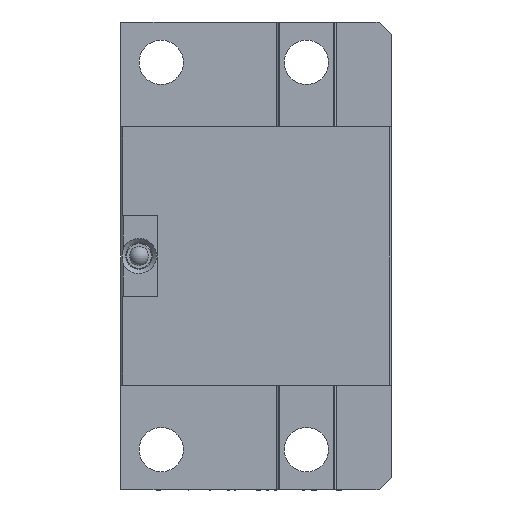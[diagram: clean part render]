
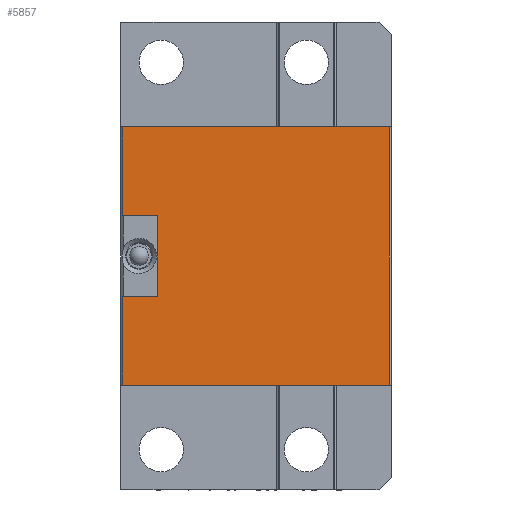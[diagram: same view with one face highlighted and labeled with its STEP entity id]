
A CAD part, front view. The second image highlights one B-rep face of the part: STEP entity #5857.
In plain terms, the highlighted planar face has unit normal (0, -1, 0).
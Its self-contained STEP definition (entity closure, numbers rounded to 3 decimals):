
#329 = CARTESIAN_POINT ( 'NONE',  ( 20.5, 7.1, -32. ) ) ;
#345 = LINE ( 'NONE', #11540, #7592 ) ;
#494 = PLANE ( 'NONE',  #3358 ) ;
#509 = LINE ( 'NONE', #6653, #806 ) ;
#520 = VERTEX_POINT ( 'NONE', #4225 ) ;
#670 = LINE ( 'NONE', #10718, #7625 ) ;
#806 = VECTOR ( 'NONE', #5849, 1000. ) ;
#873 = ORIENTED_EDGE ( 'NONE', *, *, #10090, .F. ) ;
#1004 = EDGE_LOOP ( 'NONE', ( #873, #8696, #7498, #3270, #4585, #5607, #3249, #5315 ) ) ;
#1554 = VECTOR ( 'NONE', #3181, 1000. ) ;
#2068 = DIRECTION ( 'NONE',  ( 1., 0., 0. ) ) ;
#2507 = CARTESIAN_POINT ( 'NONE',  ( -46., 7.1, 10. ) ) ;
#2514 = CARTESIAN_POINT ( 'NONE',  ( -37., 7.1, -10. ) ) ;
#2519 = VERTEX_POINT ( 'NONE', #329 ) ;
#2772 = VERTEX_POINT ( 'NONE', #2514 ) ;
#2773 = VECTOR ( 'NONE', #6655, 1000. ) ;
#3181 = DIRECTION ( 'NONE',  ( 1., 0., 0. ) ) ;
#3249 = ORIENTED_EDGE ( 'NONE', *, *, #8025, .F. ) ;
#3270 = ORIENTED_EDGE ( 'NONE', *, *, #8665, .T. ) ;
#3358 = AXIS2_PLACEMENT_3D ( 'NONE', #10888, #7112, #4856 ) ;
#3752 = EDGE_CURVE ( 'NONE', #520, #10953, #10335, .T. ) ;
#4064 = LINE ( 'NONE', #4211, #1554 ) ;
#4211 = CARTESIAN_POINT ( 'NONE',  ( -46., 7.1, -10. ) ) ;
#4225 = CARTESIAN_POINT ( 'NONE',  ( 20.5, 7.1, 32. ) ) ;
#4290 = CARTESIAN_POINT ( 'NONE',  ( -45.5, 7.1, 10. ) ) ;
#4314 = VERTEX_POINT ( 'NONE', #4290 ) ;
#4450 = DIRECTION ( 'NONE',  ( -1., 0., 0. ) ) ;
#4585 = ORIENTED_EDGE ( 'NONE', *, *, #3752, .T. ) ;
#4856 = DIRECTION ( 'NONE',  ( 0., 0., -1. ) ) ;
#5176 = DIRECTION ( 'NONE',  ( 0., 0., -1. ) ) ;
#5203 = CARTESIAN_POINT ( 'NONE',  ( -45.5, 7.1, -32. ) ) ;
#5315 = ORIENTED_EDGE ( 'NONE', *, *, #9069, .F. ) ;
#5607 = ORIENTED_EDGE ( 'NONE', *, *, #9347, .T. ) ;
#5692 = CARTESIAN_POINT ( 'NONE',  ( -46., 7.1, 32. ) ) ;
#5849 = DIRECTION ( 'NONE',  ( 0., 0., 1. ) ) ;
#5857 = ADVANCED_FACE ( 'NONE', ( #8974 ), #494, .T. ) ;
#5867 = VECTOR ( 'NONE', #5176, 1000. ) ;
#6402 = VERTEX_POINT ( 'NONE', #5203 ) ;
#6653 = CARTESIAN_POINT ( 'NONE',  ( -37., 7.1, 10. ) ) ;
#6655 = DIRECTION ( 'NONE',  ( -1., 0., 0. ) ) ;
#6954 = CARTESIAN_POINT ( 'NONE',  ( -37., 7.1, 10. ) ) ;
#7076 = EDGE_CURVE ( 'NONE', #11257, #6402, #8687, .T. ) ;
#7112 = DIRECTION ( 'NONE',  ( 0., -1., 0. ) ) ;
#7347 = VECTOR ( 'NONE', #10656, 1000. ) ;
#7498 = ORIENTED_EDGE ( 'NONE', *, *, #11580, .T. ) ;
#7592 = VECTOR ( 'NONE', #2068, 1000. ) ;
#7625 = VECTOR ( 'NONE', #11931, 1000. ) ;
#8025 = EDGE_CURVE ( 'NONE', #8724, #4314, #8228, .T. ) ;
#8228 = LINE ( 'NONE', #2507, #10169 ) ;
#8665 = EDGE_CURVE ( 'NONE', #2519, #520, #11918, .T. ) ;
#8687 = LINE ( 'NONE', #9863, #5867 ) ;
#8696 = ORIENTED_EDGE ( 'NONE', *, *, #7076, .T. ) ;
#8724 = VERTEX_POINT ( 'NONE', #6954 ) ;
#8974 = FACE_OUTER_BOUND ( 'NONE', #1004, .T. ) ;
#9069 = EDGE_CURVE ( 'NONE', #2772, #8724, #509, .T. ) ;
#9256 = CARTESIAN_POINT ( 'NONE',  ( -45.5, 7.1, -10. ) ) ;
#9347 = EDGE_CURVE ( 'NONE', #10953, #4314, #670, .T. ) ;
#9815 = CARTESIAN_POINT ( 'NONE',  ( 20.5, 7.1, 32. ) ) ;
#9863 = CARTESIAN_POINT ( 'NONE',  ( -45.5, 7.1, -32. ) ) ;
#10090 = EDGE_CURVE ( 'NONE', #11257, #2772, #4064, .T. ) ;
#10169 = VECTOR ( 'NONE', #4450, 1000. ) ;
#10335 = LINE ( 'NONE', #5692, #2773 ) ;
#10656 = DIRECTION ( 'NONE',  ( 0., 0., 1. ) ) ;
#10718 = CARTESIAN_POINT ( 'NONE',  ( -45.5, 7.1, 10. ) ) ;
#10888 = CARTESIAN_POINT ( 'NONE',  ( -46., 7.1, -32. ) ) ;
#10953 = VERTEX_POINT ( 'NONE', #11184 ) ;
#11184 = CARTESIAN_POINT ( 'NONE',  ( -45.5, 7.1, 32. ) ) ;
#11257 = VERTEX_POINT ( 'NONE', #9256 ) ;
#11540 = CARTESIAN_POINT ( 'NONE',  ( -46., 7.1, -32. ) ) ;
#11580 = EDGE_CURVE ( 'NONE', #6402, #2519, #345, .T. ) ;
#11918 = LINE ( 'NONE', #9815, #7347 ) ;
#11931 = DIRECTION ( 'NONE',  ( 0., 0., -1. ) ) ;
